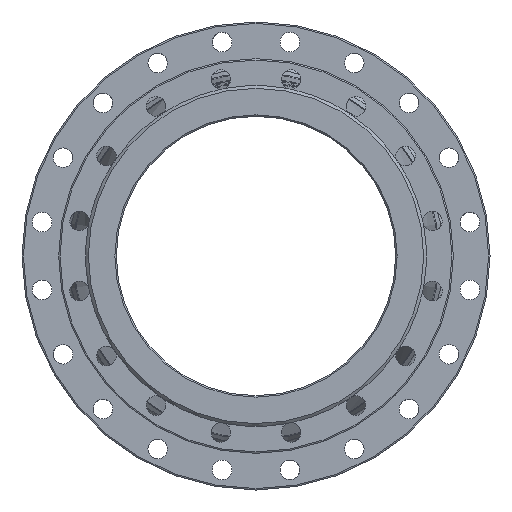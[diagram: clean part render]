
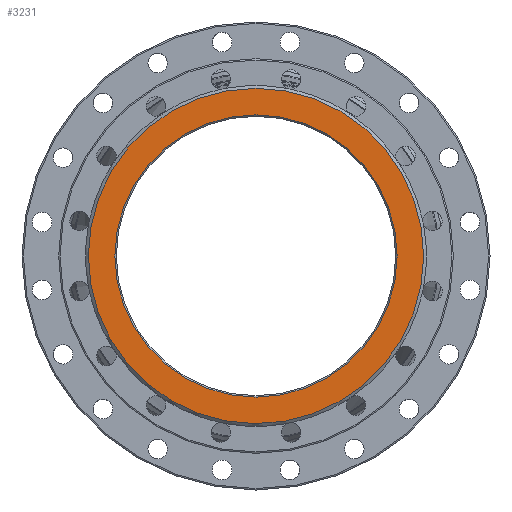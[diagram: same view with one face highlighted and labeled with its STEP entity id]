
A CAD part, left-side view. The second image highlights one B-rep face of the part: STEP entity #3231.
In plain terms, the highlighted planar face has unit normal (-1, 0, 0).
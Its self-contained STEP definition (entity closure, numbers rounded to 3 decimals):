
#60 = EDGE_LOOP ( 'NONE', ( #2318 ) ) ;
#634 = VERTEX_POINT ( 'NONE', #1290 ) ;
#990 = PLANE ( 'NONE',  #2289 ) ;
#1260 = FACE_OUTER_BOUND ( 'NONE', #60, .T. ) ;
#1290 = CARTESIAN_POINT ( 'NONE',  ( 0., 0., -202. ) ) ;
#1320 = FACE_BOUND ( 'NONE', #3348, .T. ) ;
#1422 = EDGE_CURVE ( 'NONE', #2103, #2103, #1540, .T. ) ;
#1540 = CIRCLE ( 'NONE', #1782, 240. ) ;
#1694 = CARTESIAN_POINT ( 'NONE',  ( 0., 0., 0. ) ) ;
#1782 = AXIS2_PLACEMENT_3D ( 'NONE', #1694, #2254, #2238 ) ;
#2005 = CARTESIAN_POINT ( 'NONE',  ( 0., 0., 0. ) ) ;
#2103 = VERTEX_POINT ( 'NONE', #2329 ) ;
#2166 = AXIS2_PLACEMENT_3D ( 'NONE', #2005, #3393, #3447 ) ;
#2238 = DIRECTION ( 'NONE',  ( 0., 0., 1. ) ) ;
#2254 = DIRECTION ( 'NONE',  ( -1., 0., 0. ) ) ;
#2289 = AXIS2_PLACEMENT_3D ( 'NONE', #3334, #2786, #3590 ) ;
#2318 = ORIENTED_EDGE ( 'NONE', *, *, #1422, .T. ) ;
#2329 = CARTESIAN_POINT ( 'NONE',  ( 0., 0., 240. ) ) ;
#2432 = ORIENTED_EDGE ( 'NONE', *, *, #2715, .T. ) ;
#2715 = EDGE_CURVE ( 'NONE', #634, #634, #3021, .T. ) ;
#2786 = DIRECTION ( 'NONE',  ( 1., 0., 0. ) ) ;
#3021 = CIRCLE ( 'NONE', #2166, 202. ) ;
#3231 = ADVANCED_FACE ( 'NONE', ( #1320, #1260 ), #990, .F. ) ;
#3334 = CARTESIAN_POINT ( 'NONE',  ( 0., 200., 0. ) ) ;
#3348 = EDGE_LOOP ( 'NONE', ( #2432 ) ) ;
#3393 = DIRECTION ( 'NONE',  ( 1., 0., 0. ) ) ;
#3447 = DIRECTION ( 'NONE',  ( 0., 0., -1. ) ) ;
#3590 = DIRECTION ( 'NONE',  ( 0., 0., -1. ) ) ;
